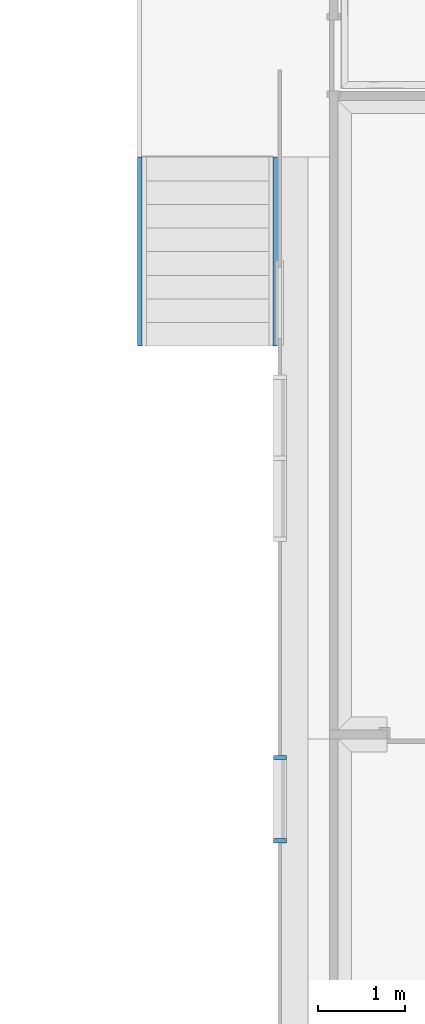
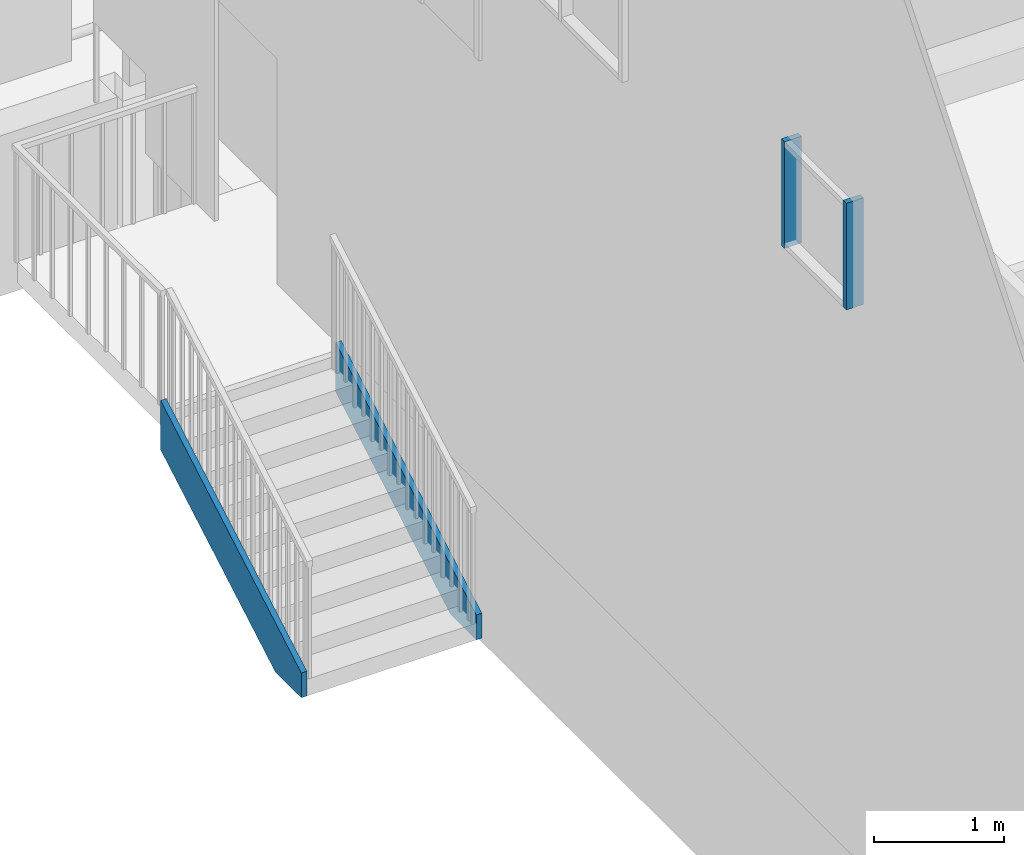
# One storey, part 2 of 64: 4 members, 2 elements without a shape of their own.
"""IFC2X3 building model written with IfcOpenShell, lengths in millimetres."""

import ifcopenshell
import ifcopenshell.guid

model = None  # the IFC model being written
_history = None  # IfcOwnerHistory: only IFC2X3 demands one
_inside = {}  # id of a spatial element -> (the spatial element, [elements in it])
_under = {}  # id of a project, library or spatial element -> (it, [spatial elements below it])
_declared = {}  # id of a project -> (the project, [libraries it declares])
_typed = {}  # id of a type object -> (the type object, [elements of that type])
_made_of = {}  # id of a material, layer set ... -> (it, [elements and type objects made of it])


def new_model(schema):
    """Start an empty IFC model of exactly this schema.

    Asked for "IFC4X3", IfcOpenShell would pick the latest addendum, in which some entities
    have other attributes; the version numbers below select the first issue.
    IFC2X3 requires an IfcOwnerHistory on every rooted entity: one is made here for all.
    """
    global model, _history
    if schema == "IFC4X3":
        model = ifcopenshell.file(schema_version=(4, 3, 0, 0))
    else:
        model = ifcopenshell.file(schema=schema)
    _inside.clear()
    _under.clear()
    _declared.clear()
    _typed.clear()
    _made_of.clear()
    _history = None
    if model.schema == "IFC2X3":
        org = make("IfcOrganization", Name="unknown")
        user = make(
            "IfcPersonAndOrganization",
            ThePerson=make("IfcPerson", FamilyName="unknown"),
            TheOrganization=org,
        )
        app = make(
            "IfcApplication",
            ApplicationDeveloper=org,
            Version="unknown",
            ApplicationFullName="unknown",
            ApplicationIdentifier="unknown",
        )
        _history = make(
            "IfcOwnerHistory",
            OwningUser=user,
            OwningApplication=app,
            ChangeAction="ADDED",
            CreationDate=0,
        )
    return model


def make(cls, **values):
    """One entity of the class cls with the attributes given. An attribute that is None is left unset."""
    return model.create_entity(
        cls, **{name: value for name, value in values.items() if value is not None}
    )


def entity(cls, *values):
    """Any entity or typed value of the class cls, its attributes in the order of the schema. None: left unset."""
    e = model.create_entity(cls)
    for i, value in enumerate(values):
        if value is not None:
            e[i] = value
    return e


def rooted(cls, **values):
    """An entity with a GlobalId (a new one), such as an element, a storey or a relation."""
    return make(cls, GlobalId=ifcopenshell.guid.new(), OwnerHistory=_history, **values)


def si_unit(unit_type, name, prefix=None):
    """IfcSIUnit, for example si_unit("LENGTHUNIT", "METRE", prefix="MILLI")."""
    return make("IfcSIUnit", UnitType=unit_type, Prefix=prefix, Name=name)


def converted_unit(unit_type, name, factor, base, dimensions=None, offset=None):
    """IfcConversionBasedUnit, such as the inch: factor (a typed value) times the base unit."""
    return make(
        "IfcConversionBasedUnit"
        if offset is None
        else "IfcConversionBasedUnitWithOffset",
        ConversionOffset=offset,
        Dimensions=None
        if dimensions is None
        else entity("IfcDimensionalExponents", *dimensions),
        UnitType=unit_type,
        Name=name,
        ConversionFactor=make(
            "IfcMeasureWithUnit", ValueComponent=factor, UnitComponent=base
        ),
    )


def derived_unit(unit_type, elements):
    """IfcDerivedUnit: a product of units, each with its exponent."""
    return make(
        "IfcDerivedUnit",
        Elements=[
            make("IfcDerivedUnitElement", Unit=unit, Exponent=power)
            for unit, power in elements
        ],
        UnitType=unit_type,
    )


def assignment(units):
    """IfcUnitAssignment: the units of a project."""
    return None if units is None else make("IfcUnitAssignment", Units=units)


def point(xyz):
    """IfcCartesianPoint."""
    return None if xyz is None else make("IfcCartesianPoint", Coordinates=xyz)


def direction(xyz):
    """IfcDirection."""
    return None if xyz is None else make("IfcDirection", DirectionRatios=xyz)


def frame(location, z_axis=None, x_axis=None):
    """IfcAxis2Placement3D, a coordinate frame: its origin and axes. An axis left out is left unset."""
    return make(
        "IfcAxis2Placement3D",
        Location=point(location),
        Axis=direction(z_axis),
        RefDirection=direction(x_axis),
    )


def frame_2d(location, x_axis=None):
    """IfcAxis2Placement2D, a coordinate frame in the plane: its origin and x axis."""
    return make(
        "IfcAxis2Placement2D", Location=point(location), RefDirection=direction(x_axis)
    )


def origin():
    """The frame at (0, 0, 0) with its axes left unset."""
    return frame((0.0, 0.0, 0.0))


def place(relative_to, where):
    """IfcLocalPlacement: puts the frame where relative to a parent placement (None: the world)."""
    return make(
        "IfcLocalPlacement", PlacementRelTo=relative_to, RelativePlacement=where
    )


def context(
    kind, dimensions, precision=None, world=None, true_north=None, identifier=None
):
    """IfcGeometricRepresentationContext, for example the 3D "Model" context."""
    return make(
        "IfcGeometricRepresentationContext",
        ContextIdentifier=identifier,
        ContextType=kind,
        CoordinateSpaceDimension=dimensions,
        Precision=precision,
        WorldCoordinateSystem=world,
        TrueNorth=true_north,
    )


def subcontext(parent, identifier, kind, view, scale=None):
    """IfcGeometricRepresentationSubContext, for example "Body" below "Model"."""
    return make(
        "IfcGeometricRepresentationSubContext",
        ContextIdentifier=identifier,
        ContextType=kind,
        ParentContext=parent,
        TargetScale=scale,
        TargetView=view,
    )


def project(units=None, contexts=None):
    """IfcProject with its units and contexts."""
    return rooted(
        "IfcProject",
        Name="project",
        RepresentationContexts=contexts,
        UnitsInContext=assignment(units),
    )


def spatial(cls, under=None, at=None, **own):
    """A site, building, storey or space (cls), placed at a placement, below another one or the project."""
    s = rooted(cls, ObjectPlacement=at, **own)
    if under is not None:
        _under.setdefault(under.id(), (under, []))[1].append(s)
    return s


def polyline(points):
    """IfcPolyline through the points."""
    return make("IfcPolyline", Points=[point(p) for p in points])


def profile(cls, at=None, kind="AREA", **sizes):
    """A parametric profile (cls). Its sizes go by their IFC names, for example OverallWidth=200.0."""
    return make(cls, ProfileType=kind, Position=at, **sizes)


def rectangle(**sizes):
    """IfcRectangleProfileDef."""
    return profile("IfcRectangleProfileDef", **sizes)


def outline(outer, holes=None, kind="AREA"):
    """IfcArbitraryClosedProfileDef: a profile drawn as a closed curve; with holes, ...WithVoids."""
    if holes is None:
        return make("IfcArbitraryClosedProfileDef", ProfileType=kind, OuterCurve=outer)
    return make(
        "IfcArbitraryProfileDefWithVoids",
        ProfileType=kind,
        OuterCurve=outer,
        InnerCurves=holes,
    )


def extrude(swept, where, along, depth):
    """IfcExtrudedAreaSolid: the profile swept, set in the frame where, extruded along a direction by depth."""
    return make(
        "IfcExtrudedAreaSolid",
        SweptArea=swept,
        Position=where,
        ExtrudedDirection=direction(along),
        Depth=depth,
    )


def shape(context_of_items, identifier, shape_type, items):
    """IfcShapeRepresentation: the items that make up one representation, for example the "Body"."""
    return make(
        "IfcShapeRepresentation",
        ContextOfItems=context_of_items,
        RepresentationIdentifier=identifier,
        RepresentationType=shape_type,
        Items=items,
    )


def material(Name=None, Category=None):
    """IfcMaterial."""
    return make("IfcMaterial", Name=Name, Category=Category)


def made_of(thing, what):
    """Note that an element or type object is made of a material, layer set ...; save() writes the relation."""
    if what is not None:
        _made_of.setdefault(what.id(), (what, []))[1].append(thing)
    return thing


def type_object(cls, material=None, **own):
    """A type object (cls), such as IfcWallType, which elements share."""
    return made_of(rooted(cls, **own), material)


def element(
    cls,
    number,
    at=None,
    inside=None,
    cuts=None,
    type_object=None,
    material=None,
    context=None,
    identifier="Body",
    shape_type=None,
    held_by="IfcProductDefinitionShape",
    body=None,
    shapes=None,
    **own,
):
    """One element of the class cls, such as IfcWall. Its Tag is "e" and its number.

    at: its placement. inside: the storey or other place that contains it. cuts: it is an
    opening in that element (IfcRelVoidsElement). A single representation is given by context,
    identifier, shape_type and body (its items); several are given by shapes. held_by: the class
    of the entity that holds the representations. save() writes the other relations.
    """
    e = rooted(cls, Tag="e%d" % number, ObjectPlacement=at, **own)
    if body is not None:
        shapes = [shape(context, identifier, shape_type, body)]
    if shapes is not None:
        e.Representation = make(held_by, Representations=shapes)
    if inside is not None:
        _inside.setdefault(inside.id(), (inside, []))[1].append(e)
    if cuts is not None:
        rooted(
            "IfcRelVoidsElement", RelatingBuildingElement=cuts, RelatedOpeningElement=e
        )
    if type_object is not None:
        _typed.setdefault(type_object.id(), (type_object, []))[1].append(e)
    return made_of(e, material)


def aggregate(whole, parts):
    """IfcRelAggregates: a whole, such as a stair, and the parts it consists of."""
    return rooted("IfcRelAggregates", RelatingObject=whole, RelatedObjects=parts)


def save(model, path):
    """Write the relations noted so far, then the file.

    IfcRelAggregates (storeys below a building ...), IfcRelContainedInSpatialStructure (elements
    in a storey), IfcRelDefinesByType, IfcRelAssociatesMaterial and IfcRelDeclares: one each for
    every whole, place, type object, material and project.
    """
    for whole, parts in _under.values():
        aggregate(whole, parts)
    for where, things in _inside.values():
        rooted(
            "IfcRelContainedInSpatialStructure",
            RelatedElements=things,
            RelatingStructure=where,
        )
    for kind, things in _typed.values():
        rooted("IfcRelDefinesByType", RelatedObjects=things, RelatingType=kind)
    for what, things in _made_of.values():
        rooted("IfcRelAssociatesMaterial", RelatedObjects=things, RelatingMaterial=what)
    for by, libraries in _declared.values():
        rooted("IfcRelDeclares", RelatingContext=by, RelatedDefinitions=libraries)
    model.write(path)


model = new_model("IFC2X3")

# Units and contexts
model_context = context("Model", 3, precision=0.01, world=origin(), true_north=direction((4.05803320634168e-15, -1.0)))
body_context = subcontext(model_context, "Body", "Model", "MODEL_VIEW")
ifc_project = project(units=[si_unit("LENGTHUNIT", "METRE", prefix="MILLI"), si_unit("AREAUNIT", "SQUARE_METRE"), si_unit("VOLUMEUNIT", "CUBIC_METRE"), converted_unit("PLANEANGLEUNIT", "DEGREE", entity("IfcRatioMeasure", 0.0174532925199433), si_unit("PLANEANGLEUNIT", "RADIAN"), dimensions=[0, 0, 0, 0, 0, 0, 0]), si_unit("MASSUNIT", "GRAM", prefix="KILO"), derived_unit("MASSDENSITYUNIT", [(si_unit("MASSUNIT", "GRAM", prefix="KILO"), 1), (si_unit("LENGTHUNIT", "METRE"), -3)]), si_unit("TIMEUNIT", "SECOND"), si_unit("FREQUENCYUNIT", "HERTZ"), si_unit("THERMODYNAMICTEMPERATUREUNIT", "DEGREE_CELSIUS"), derived_unit("THERMALTRANSMITTANCEUNIT", [(si_unit("MASSUNIT", "GRAM", prefix="KILO"), 1), (si_unit("THERMODYNAMICTEMPERATUREUNIT", "KELVIN"), -1), (si_unit("TIMEUNIT", "SECOND"), -3)]), derived_unit("VOLUMETRICFLOWRATEUNIT", [(si_unit("LENGTHUNIT", "METRE"), 3), (si_unit("TIMEUNIT", "SECOND"), -1)]), si_unit("ELECTRICCURRENTUNIT", "AMPERE"), si_unit("ELECTRICVOLTAGEUNIT", "VOLT"), si_unit("POWERUNIT", "WATT"), si_unit("FORCEUNIT", "NEWTON", prefix="KILO"), si_unit("ILLUMINANCEUNIT", "LUX"), si_unit("LUMINOUSFLUXUNIT", "LUMEN"), si_unit("LUMINOUSINTENSITYUNIT", "CANDELA"), derived_unit("USERDEFINED", [(si_unit("MASSUNIT", "GRAM", prefix="KILO"), -1), (si_unit("LENGTHUNIT", "METRE"), -2), (si_unit("TIMEUNIT", "SECOND"), 3), (si_unit("LUMINOUSFLUXUNIT", "LUMEN"), 1)]), derived_unit("LINEARVELOCITYUNIT", [(si_unit("LENGTHUNIT", "METRE"), 1), (si_unit("TIMEUNIT", "SECOND"), -1)]), si_unit("PRESSUREUNIT", "PASCAL"), derived_unit("USERDEFINED", [(si_unit("LENGTHUNIT", "METRE"), -2), (si_unit("MASSUNIT", "GRAM", prefix="KILO"), 1), (si_unit("TIMEUNIT", "SECOND"), -2)])], contexts=[model_context])

# Site, building, storey
site_placement = place(None, frame((927466.849349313, 583801.882853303, 0.0), z_axis=(0.0, 0.0, 1.0), x_axis=(-1.0, 0.0, 0.0)))
site = spatial("IfcSite", under=ifc_project, at=site_placement, Name="Surface", CompositionType="ELEMENT")
building_placement = place(site_placement, origin())
building = spatial("IfcBuilding", under=site, at=building_placement, CompositionType="ELEMENT")
storey_placement = place(building_placement, frame((0.0, 0.0, 44170.0)))
storey = spatial("IfcBuildingStorey", under=building, at=storey_placement, Name="Ground FFL", CompositionType="ELEMENT", Elevation=44170.0)

# Stair, members
stair_placement = place(storey_placement, origin())
stair = element("IfcStair", 1, at=stair_placement, inside=storey, Name="Assembled Stair:Stair", ObjectType="Assembled Stair:170mm max riser 270mm going", ShapeType="NOTDEFINED")
member_type = type_object("IfcMemberType", Name="Stringer:Stringer - 50mm Width", PredefinedType="STRINGER")
member_1_placement = place(stair_placement, origin())
member_1 = element("IfcMember", 2, at=member_1_placement, type_object=member_type, Name="Assembled Stair:Stair:588793 Stringer 1", ObjectType="Assembled Stair:170mm max riser 270mm going", context=body_context, shape_type="SweptSolid", body=[
    extrude(outline(polyline([(-974.13104637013, -200.08715778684), (1518.70709023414, -200.08715778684), (1288.25441533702, 199.912842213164), (-743.222003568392, 199.912842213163), (-1089.60845563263, 0.34863114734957), (-974.13104637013, -200.08715778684)])), frame((-79205.6913038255, 17073.5179787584, -855.756788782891), z_axis=(1.0, 0.0, 0.0), x_axis=(0.0, -0.866482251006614, 0.499207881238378)), (0.0, 0.0, 1.0), 50.0000000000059),
])
member_2_placement = place(stair_placement, origin())
member_2 = element("IfcMember", 3, at=member_2_placement, type_object=member_type, Name="Assembled Stair:Stair:588793 Stringer 2", ObjectType="Assembled Stair:170mm max riser 270mm going", context=body_context, shape_type="SweptSolid", body=[
    extrude(outline(polyline([(-974.13104637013, -200.08715778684), (1518.70709023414, -200.08715778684), (1288.25441533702, 199.912842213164), (-743.222003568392, 199.912842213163), (-1089.60845563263, 0.34863114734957), (-974.13104637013, -200.08715778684)])), frame((-80755.6913038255, 17073.5179787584, -855.756788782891), z_axis=(1.0, 0.0, 0.0), x_axis=(0.0, -0.866482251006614, 0.499207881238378)), (0.0, 0.0, 1.0), 50.0000000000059),
])
aggregate(stair, [member_1, member_2])

# Curtain wall, members
curtain_wall_type = type_object("IfcCurtainWallType", Name="Curtain Wall:Storefront", PredefinedType="NOTDEFINED")
curtain_wall_placement = place(storey_placement, frame((0.0, 0.0, -44170.0)))
curtain_wall = element("IfcCurtainWall", 4, at=curtain_wall_placement, inside=storey, type_object=curtain_wall_type, Name="Curtain Wall:Storefront", ObjectType="Curtain Wall:Storefront")
ifc_material = material(Name="Aluminium")
member_3_placement = place(curtain_wall_placement, frame((0.0, 0.0, 44170.0)))
member_3 = element("IfcMember", 5, at=member_3_placement, material=ifc_material, Name="Curtain Wall:Storefront:8486", ObjectType="Curtain Wall:Storefront:8486", context=body_context, shape_type="SweptSolid", body=[
    extrude(rectangle(XDim=150.000000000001, YDim=50.0000000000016, at=frame_2d((0.0, 2.16715534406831e-12), x_axis=(1.0, 0.0))), frame((-80781.59177989, 23669.7192501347, 5130.539651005), z_axis=(0.0, 0.0, 1.0), x_axis=(-1.0, 0.0, 0.0)), (0.0, 0.0, 1.0), 999.999999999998),
])
member_4_placement = place(curtain_wall_placement, frame((0.0, 0.0, 44170.0)))
member_4 = element("IfcMember", 6, at=member_4_placement, material=ifc_material, Name="Curtain Wall:Storefront:8486", ObjectType="Curtain Wall:Storefront:8486", context=body_context, shape_type="SweptSolid", body=[
    extrude(rectangle(XDim=150.000000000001, YDim=50.0000000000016, at=frame_2d((0.0, 2.16715534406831e-12), x_axis=(1.0, 0.0))), frame((-80781.59177989, 22719.7192501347, 6130.539651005), z_axis=(0.0, 0.0, -1.0), x_axis=(-1.0, 0.0, 0.0)), (0.0, 0.0, 1.0), 999.999999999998),
])
aggregate(curtain_wall, [member_3, member_4])

save(model, "model.ifc")
